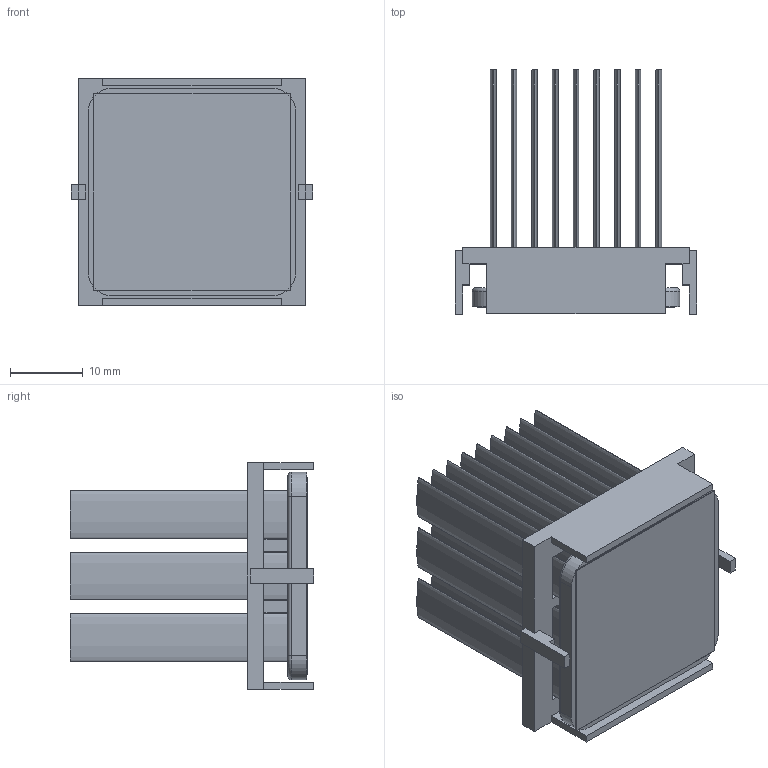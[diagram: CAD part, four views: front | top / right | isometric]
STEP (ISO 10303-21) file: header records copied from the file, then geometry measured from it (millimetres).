
FILE_DESCRIPTION (( 'STEP AP214' ), '1' );
FILE_NAME ('INM29001-33W-2.6O.STEP', '2023-02-17T21:25:38', ( '' ), ( '' ), 'SwSTEP 2.0', 'SolidWorks 2020', '' );
FILE_SCHEMA (( 'AUTOMOTIVE_DESIGN' ));
Length unit declared in the file: inch
Products named in the file (1): INM29001-33W-2.6O
Bounding box: 33.2 x 33.6 x 31.2 mm (x, y, z)
Volume: 7133.3 mm3; surface area: 16676.7 mm2
Topology: 3 solids, 3 shells, 163 faces, 382 edges, 252 vertices
Faces by surface type: plane 97, bspline 54, cylinder 8, torus 4
Entity records: 6919 total; most frequent: CARTESIAN_POINT 1500, ORIENTED_EDGE 764, DIRECTION 514, EDGE_CURVE 382, VECTOR 254, LINE 254, VERTEX_POINT 252, EDGE_LOOP 192
